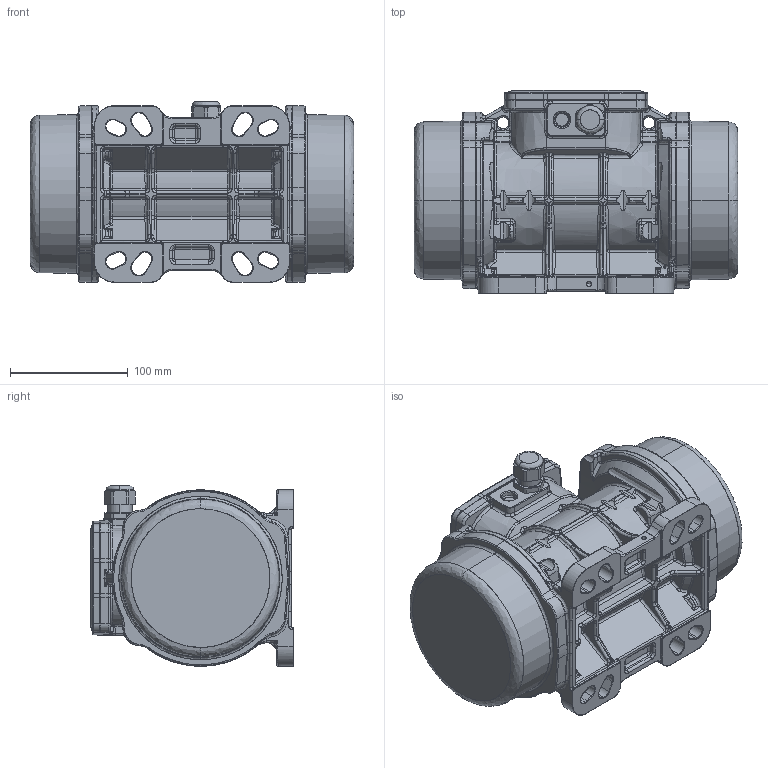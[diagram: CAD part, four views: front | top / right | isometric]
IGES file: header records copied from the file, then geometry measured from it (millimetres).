
Start section: SolidWorks IGES file using analytic representation for surfaces
Global section: file name: C:\Users\UT14\Desktop\DISEGNI_DI_INGOMBRO_RICCARDO\IGES\30-A0\MVE400-3-36_MVE200-15-18_MVE50-1-12-30A0.IGS; native system: SolidWorks 2016; preprocessor: SolidWorks 2016; author: UT14; date: 180606.165743; units: millimetre
Bounding box: 275 x 172.5 x 153.46 mm (x, y, z)
Surface area: 237454.7 mm2 (no closed solid volume)
Topology: 0 solids, 0 shells, 2441 faces, 20942 edges, 20829 vertices
Faces by surface type: bspline 1389, revolution 1052
